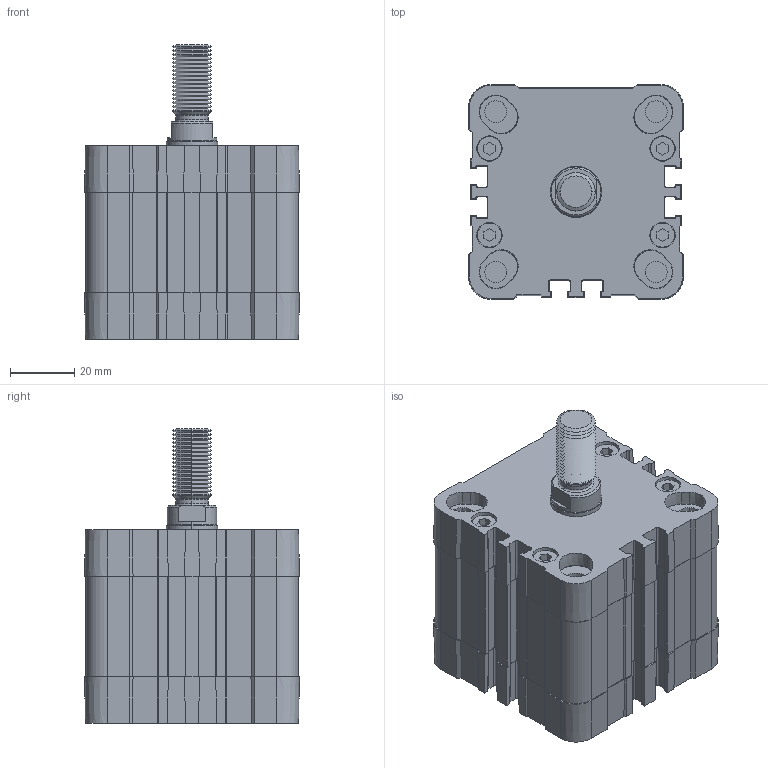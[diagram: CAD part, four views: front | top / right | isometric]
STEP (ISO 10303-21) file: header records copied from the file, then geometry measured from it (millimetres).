
FILE_DESCRIPTION (( 'STEP AP203' ), '1' );
FILE_NAME ('NSKU050.0015 M.STEP', '2011-10-10T13:27:54', ( 'Vesta Automation srl' ), ( 'Vesta Automation srl' ), 'SwSTEP 2.0', 'SolidWorks 2009', '' );
FILE_SCHEMA (( 'CONFIG_CONTROL_DESIGN' ));
Length unit declared in the file: millimetre
Products named in the file (5): NSKU050.0015 M; FRONT END CAP-NSKU 50; REAR END CAP-NSKU 50; BARREL-NSKU50_STROKE 0015; PISTON ROD-NSKU 050 M_STROKE 0015
Assembly tree (4 placements, depth 2):
  NSKU050.0015 M
    PISTON ROD-NSKU 050 M_STROKE 0015
    REAR END CAP-NSKU 50
    BARREL-NSKU50_STROKE 0015
    FRONT END CAP-NSKU 50
Bounding box: 67 x 67 x 92 mm (x, y, z)
Volume: 211100.9 mm3; surface area: 70778.6 mm2
Topology: 4 solids, 4 shells, 1219 faces, 3145 edges, 2004 vertices
Faces by surface type: plane 614, cone 340, cylinder 261, torus 4
Entity records: 37532 total; most frequent: CARTESIAN_POINT 6563, DIRECTION 6559, ORIENTED_EDGE 6258, EDGE_CURVE 3129, AXIS2_PLACEMENT_3D 2272, LINE 2015, VECTOR 2015, VERTEX_POINT 2004
